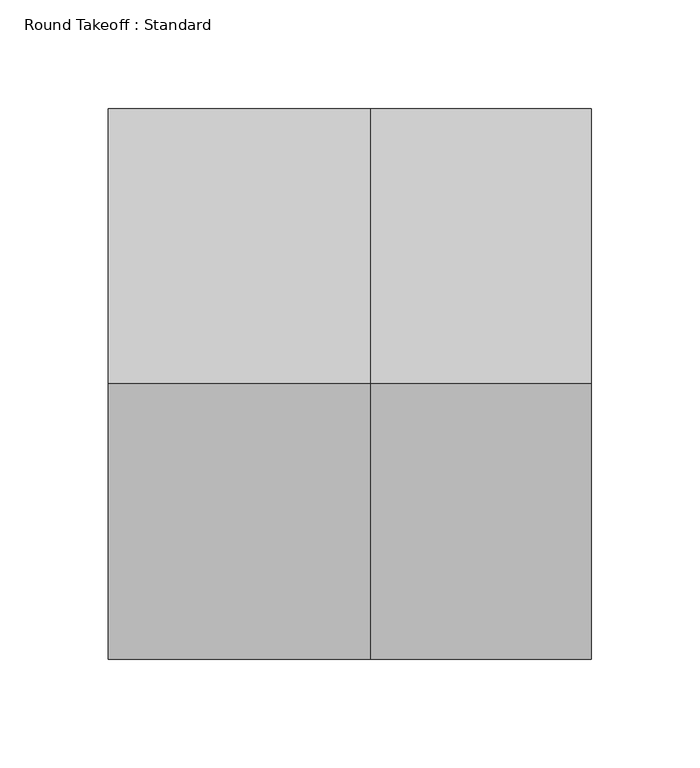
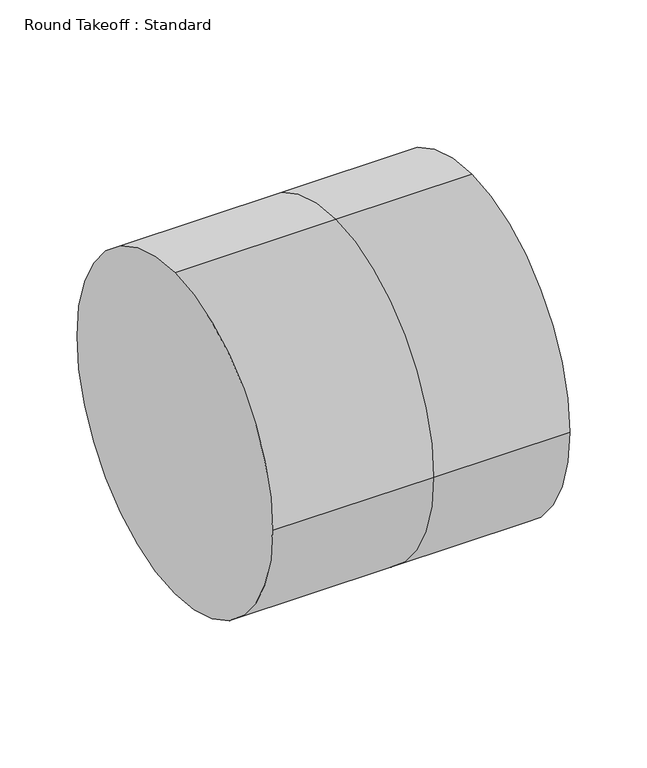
"""IFC4 building model written with IfcOpenShell, lengths in millimetres: duct fitting geometry, Round Takeoff : Standard."""

import ifcopenshell
import ifcopenshell.guid

model = None  # the IFC model being written
_history = None  # IfcOwnerHistory: only IFC2X3 demands one
_inside = {}  # id of a spatial element -> (the spatial element, [elements in it])
_under = {}  # id of a project, library or spatial element -> (it, [spatial elements below it])
_declared = {}  # id of a project -> (the project, [libraries it declares])
_typed = {}  # id of a type object -> (the type object, [elements of that type])
_made_of = {}  # id of a material, layer set ... -> (it, [elements and type objects made of it])


def new_model(schema):
    """Start an empty IFC model of exactly this schema.

    Asked for "IFC4X3", IfcOpenShell would pick the latest addendum, in which some entities
    have other attributes; the version numbers below select the first issue.
    IFC2X3 requires an IfcOwnerHistory on every rooted entity: one is made here for all.
    """
    global model, _history
    if schema == "IFC4X3":
        model = ifcopenshell.file(schema_version=(4, 3, 0, 0))
    else:
        model = ifcopenshell.file(schema=schema)
    _inside.clear()
    _under.clear()
    _declared.clear()
    _typed.clear()
    _made_of.clear()
    _history = None
    if model.schema == "IFC2X3":
        org = make("IfcOrganization", Name="unknown")
        user = make(
            "IfcPersonAndOrganization",
            ThePerson=make("IfcPerson", FamilyName="unknown"),
            TheOrganization=org,
        )
        app = make(
            "IfcApplication",
            ApplicationDeveloper=org,
            Version="unknown",
            ApplicationFullName="unknown",
            ApplicationIdentifier="unknown",
        )
        _history = make(
            "IfcOwnerHistory",
            OwningUser=user,
            OwningApplication=app,
            ChangeAction="ADDED",
            CreationDate=0,
        )
    return model


def make(cls, **values):
    """One entity of the class cls with the attributes given. An attribute that is None is left unset."""
    return model.create_entity(
        cls, **{name: value for name, value in values.items() if value is not None}
    )


def rooted(cls, **values):
    """An entity with a GlobalId (a new one), such as an element, a storey or a relation."""
    return make(cls, GlobalId=ifcopenshell.guid.new(), OwnerHistory=_history, **values)


def si_unit(unit_type, name, prefix=None):
    """IfcSIUnit, for example si_unit("LENGTHUNIT", "METRE", prefix="MILLI")."""
    return make("IfcSIUnit", UnitType=unit_type, Prefix=prefix, Name=name)


def assignment(units):
    """IfcUnitAssignment: the units of a project."""
    return None if units is None else make("IfcUnitAssignment", Units=units)


def point(xyz):
    """IfcCartesianPoint."""
    return None if xyz is None else make("IfcCartesianPoint", Coordinates=xyz)


def direction(xyz):
    """IfcDirection."""
    return None if xyz is None else make("IfcDirection", DirectionRatios=xyz)


def frame(location, z_axis=None, x_axis=None):
    """IfcAxis2Placement3D, a coordinate frame: its origin and axes. An axis left out is left unset."""
    return make(
        "IfcAxis2Placement3D",
        Location=point(location),
        Axis=direction(z_axis),
        RefDirection=direction(x_axis),
    )


def origin():
    """The frame at (0, 0, 0) with its axes left unset."""
    return frame((0.0, 0.0, 0.0))


def place(relative_to, where):
    """IfcLocalPlacement: puts the frame where relative to a parent placement (None: the world)."""
    return make(
        "IfcLocalPlacement", PlacementRelTo=relative_to, RelativePlacement=where
    )


def context(
    kind, dimensions, precision=None, world=None, true_north=None, identifier=None
):
    """IfcGeometricRepresentationContext, for example the 3D "Model" context."""
    return make(
        "IfcGeometricRepresentationContext",
        ContextIdentifier=identifier,
        ContextType=kind,
        CoordinateSpaceDimension=dimensions,
        Precision=precision,
        WorldCoordinateSystem=world,
        TrueNorth=true_north,
    )


def project(units=None, contexts=None):
    """IfcProject with its units and contexts."""
    return rooted(
        "IfcProject",
        Name="project",
        RepresentationContexts=contexts,
        UnitsInContext=assignment(units),
    )


def spatial(cls, under=None, at=None, **own):
    """A site, building, storey or space (cls), placed at a placement, below another one or the project."""
    s = rooted(cls, ObjectPlacement=at, **own)
    if under is not None:
        _under.setdefault(under.id(), (under, []))[1].append(s)
    return s


def circle_curve(where, radius):
    """IfcCircle in the frame where."""
    return make("IfcCircle", Position=where, Radius=radius)


def shape(context_of_items, identifier, shape_type, items):
    """IfcShapeRepresentation: the items that make up one representation, for example the "Body"."""
    return make(
        "IfcShapeRepresentation",
        ContextOfItems=context_of_items,
        RepresentationIdentifier=identifier,
        RepresentationType=shape_type,
        Items=items,
    )


def source(mapping_origin, context_of_items, identifier, shape_type, items):
    """IfcRepresentationMap: a shape defined once, which mapped items show again and again."""
    return make(
        "IfcRepresentationMap",
        MappingOrigin=mapping_origin,
        MappedRepresentation=shape(context_of_items, identifier, shape_type, items),
    )


def transform(
    local_origin,
    x_axis=None,
    y_axis=None,
    z_axis=None,
    scale=None,
    scale2=None,
    scale3=None,
    uniform=True,
):
    """IfcCartesianTransformationOperator3D, or its non-uniform kind. x_axis, y_axis, z_axis: its Axis1, 2, 3."""
    if uniform:
        return make(
            "IfcCartesianTransformationOperator3D",
            Axis1=direction(x_axis),
            Axis2=direction(y_axis),
            LocalOrigin=point(local_origin),
            Scale=scale,
            Axis3=direction(z_axis),
        )
    return make(
        "IfcCartesianTransformationOperator3DnonUniform",
        Axis1=direction(x_axis),
        Axis2=direction(y_axis),
        LocalOrigin=point(local_origin),
        Scale=scale,
        Axis3=direction(z_axis),
        Scale2=scale2,
        Scale3=scale3,
    )


def mapped(mapping_source, mapping_target):
    """IfcMappedItem: shows the shape of a source again, moved by a transform."""
    return make(
        "IfcMappedItem", MappingSource=mapping_source, MappingTarget=mapping_target
    )


def made_of(thing, what):
    """Note that an element or type object is made of a material, layer set ...; save() writes the relation."""
    if what is not None:
        _made_of.setdefault(what.id(), (what, []))[1].append(thing)
    return thing


def element(
    cls,
    number,
    at=None,
    inside=None,
    cuts=None,
    type_object=None,
    material=None,
    context=None,
    identifier="Body",
    shape_type=None,
    held_by="IfcProductDefinitionShape",
    body=None,
    shapes=None,
    **own,
):
    """One element of the class cls, such as IfcWall. Its Tag is "e" and its number.

    at: its placement. inside: the storey or other place that contains it. cuts: it is an
    opening in that element (IfcRelVoidsElement). A single representation is given by context,
    identifier, shape_type and body (its items); several are given by shapes. held_by: the class
    of the entity that holds the representations. save() writes the other relations.
    """
    e = rooted(cls, Tag="e%d" % number, ObjectPlacement=at, **own)
    if body is not None:
        shapes = [shape(context, identifier, shape_type, body)]
    if shapes is not None:
        e.Representation = make(held_by, Representations=shapes)
    if inside is not None:
        _inside.setdefault(inside.id(), (inside, []))[1].append(e)
    if cuts is not None:
        rooted(
            "IfcRelVoidsElement", RelatingBuildingElement=cuts, RelatedOpeningElement=e
        )
    if type_object is not None:
        _typed.setdefault(type_object.id(), (type_object, []))[1].append(e)
    return made_of(e, material)


def aggregate(whole, parts):
    """IfcRelAggregates: a whole, such as a stair, and the parts it consists of."""
    return rooted("IfcRelAggregates", RelatingObject=whole, RelatedObjects=parts)


def save(model, path):
    """Write the relations noted so far, then the file.

    IfcRelAggregates (storeys below a building ...), IfcRelContainedInSpatialStructure (elements
    in a storey), IfcRelDefinesByType, IfcRelAssociatesMaterial and IfcRelDeclares: one each for
    every whole, place, type object, material and project.
    """
    for whole, parts in _under.values():
        aggregate(whole, parts)
    for where, things in _inside.values():
        rooted(
            "IfcRelContainedInSpatialStructure",
            RelatedElements=things,
            RelatingStructure=where,
        )
    for kind, things in _typed.values():
        rooted("IfcRelDefinesByType", RelatedObjects=things, RelatingType=kind)
    for what, things in _made_of.values():
        rooted("IfcRelAssociatesMaterial", RelatedObjects=things, RelatingMaterial=what)
    for by, libraries in _declared.values():
        rooted("IfcRelDeclares", RelatingContext=by, RelatedDefinitions=libraries)
    model.write(path)


def plane_surface(at):
    """IfcPlane: the flat surface through the origin of the frame at, square to its z axis."""
    return make("IfcPlane", Position=at)


def cylinder_surface(at, radius):
    """IfcCylindricalSurface: all points at the distance radius from the z axis of the frame at."""
    return make("IfcCylindricalSurface", Position=at, Radius=radius)


def advanced_brep(points, edges, surfaces, faces):
    """IfcAdvancedBrep: a solid bounded by faces that lie on surfaces and meet in shared edges.

    An edge is (start, end): straight between two places in points (the first is 0);
    or (start, end, curve); or (start, end, curve, False) where it runs against its curve.
    A face is (place in surfaces, loops), or (place, loops, False) where it looks against
    its surface's normal. A loop lists edges by number (the first is 1), with a minus sign
    where the edge is run from its end to its start. The first loop is the outer one.
    """
    corners = [point(p) for p in points]
    vertices = [make("IfcVertexPoint", VertexGeometry=c) for c in corners]
    made = []
    for start, end, *more in edges:
        made.append(
            make(
                "IfcEdgeCurve",
                EdgeStart=vertices[start],
                EdgeEnd=vertices[end],
                EdgeGeometry=more[0] if more else make("IfcPolyline", Points=[corners[start], corners[end]]),
                SameSense=more[1] if len(more) > 1 else True,
            )
        )
    hull = []
    for where, loops, *sense in faces:
        bounds = []
        for j, loop in enumerate(loops):
            ring = [make("IfcOrientedEdge", EdgeElement=made[abs(k) - 1], Orientation=k > 0) for k in loop]
            bounds.append(
                make(
                    "IfcFaceOuterBound" if j == 0 else "IfcFaceBound",
                    Bound=make("IfcEdgeLoop", EdgeList=ring),
                    Orientation=True,
                )
            )
        hull.append(make("IfcAdvancedFace", Bounds=bounds, FaceSurface=surfaces[where], SameSense=sense[0] if sense else True))
    return make("IfcAdvancedBrep", Outer=make("IfcClosedShell", CfsFaces=hull))


def round_takeoff_standard_37489045(model_context):
    return source(origin(), model_context, "Body", "AdvancedBrep", [
        advanced_brep(
        [(101.6119642, 0.0, 127.0), (101.6119642, -127.0, 0.0), (101.6119642, 0.0, -127.0), (101.6119642, 127.0, 0.0), (0.0, 0.0, 127.0), (0.0, -127.0, 0.0), (0.0, 0.0, -127.0), (0.0, 127.0, 0.0), (-120.893213, 0.0, 127.0), (-120.893213, 127.0, 0.0), (-120.893213, 0.0, -127.0), (-120.893213, -127.0, 0.0)],
        [
            (0, 1, circle_curve(frame((101.6119642, 0.0, 0.0), z_axis=(1.0, 0.0, 0.0), x_axis=(0.0, -1.0, 0.0)), 127.0)),
            (1, 2, circle_curve(frame((101.6119642, 0.0, 0.0), z_axis=(1.0, 0.0, 0.0), x_axis=(0.0, -1.0, 0.0)), 127.0)),
            (2, 3, circle_curve(frame((101.6119642, 0.0, 0.0), z_axis=(1.0, 0.0, 0.0), x_axis=(0.0, -1.0, 0.0)), 127.0)),
            (3, 0, circle_curve(frame((101.6119642, 0.0, 0.0), z_axis=(1.0, 0.0, 0.0), x_axis=(0.0, -1.0, 0.0)), 127.0)),
            (0, 4),
            (4, 5, circle_curve(frame((0.0, 0.0, 0.0), z_axis=(1.0, 0.0, 0.0), x_axis=(0.0, -1.0, 0.0)), 127.0)),
            (5, 1),
            (5, 6, circle_curve(frame((0.0, 0.0, 0.0), z_axis=(1.0, 0.0, 0.0), x_axis=(0.0, -1.0, 0.0)), 127.0)),
            (6, 2),
            (6, 7, circle_curve(frame((0.0, 0.0, 0.0), z_axis=(1.0, 0.0, 0.0), x_axis=(0.0, -1.0, 0.0)), 127.0)),
            (7, 3),
            (7, 4, circle_curve(frame((0.0, 0.0, 0.0), z_axis=(1.0, 0.0, 0.0), x_axis=(0.0, -1.0, 0.0)), 127.0)),
            (8, 9, circle_curve(frame((-120.893213, 0.0, 0.0), z_axis=(-1.0, 0.0, 0.0), x_axis=(0.0, -1.0, 0.0)), 127.0)),
            (9, 10, circle_curve(frame((-120.893213, 0.0, 0.0), z_axis=(-1.0, 0.0, 0.0), x_axis=(0.0, -1.0, 0.0)), 127.0)),
            (10, 11, circle_curve(frame((-120.893213, 0.0, 0.0), z_axis=(-1.0, 0.0, 0.0), x_axis=(0.0, -1.0, 0.0)), 127.0)),
            (11, 8, circle_curve(frame((-120.893213, 0.0, 0.0), z_axis=(-1.0, 0.0, 0.0), x_axis=(0.0, -1.0, 0.0)), 127.0)),
            (11, 5),
            (4, 8),
            (10, 6),
            (9, 7),
        ],
        [
            plane_surface(frame((101.6119642, 0.0, 0.0), z_axis=(1.0, 0.0, 0.0), x_axis=(0.0, 0.0, 1.0))),
            cylinder_surface(frame((0.0, 0.0, 0.0), z_axis=(-1.0, 0.0, 0.0), x_axis=(0.0, -1.0, 0.0)), 127.0),
            plane_surface(frame((-120.893213, 0.0, 0.0), z_axis=(-1.0, 0.0, 0.0), x_axis=(0.0, 0.0, 1.0))),
            cylinder_surface(frame((-120.893213, 0.0, 0.0), z_axis=(-1.0, 0.0, 0.0), x_axis=(0.0, -1.0, 0.0)), 127.0),
        ],
        [
            (0, [[1, 2, 3, 4]]),
            (1, [[5, 6, 7, -1]]),
            (1, [[-7, 8, 9, -2]]),
            (1, [[-9, 10, 11, -3]]),
            (1, [[-11, 12, -5, -4]]),
            (2, [[13, 14, 15, 16]]),
            (3, [[17, -6, 18, -16]]),
            (3, [[19, -8, -17, -15]]),
            (3, [[20, -10, -19, -14]]),
            (3, [[-18, -12, -20, -13]]),
        ],
    ),
    ])


if __name__ == "__main__":
    model = new_model("IFC4")
    model_context = context("Model", 3, world=origin())
    ifc_project = project(units=[si_unit("LENGTHUNIT", "METRE", prefix="MILLI")], contexts=[model_context])
    site = spatial("IfcSite", under=ifc_project)
    building = spatial("IfcBuilding", under=site)
    placement = place(None, origin())
    round_takeoff_standard_shape = round_takeoff_standard_37489045(model_context)
    element("IfcDuctFitting", 1, ObjectType="Round Takeoff : Standard", at=placement, inside=building, context=model_context, shape_type="MappedRepresentation", body=[
        mapped(round_takeoff_standard_shape, transform((0.0, 0.0, 0.0), x_axis=(1.0, 0.0, 0.0), y_axis=(0.0, 1.0, 0.0), z_axis=(0.0, 0.0, 1.0))),
    ])
    save(model, "model.ifc")
